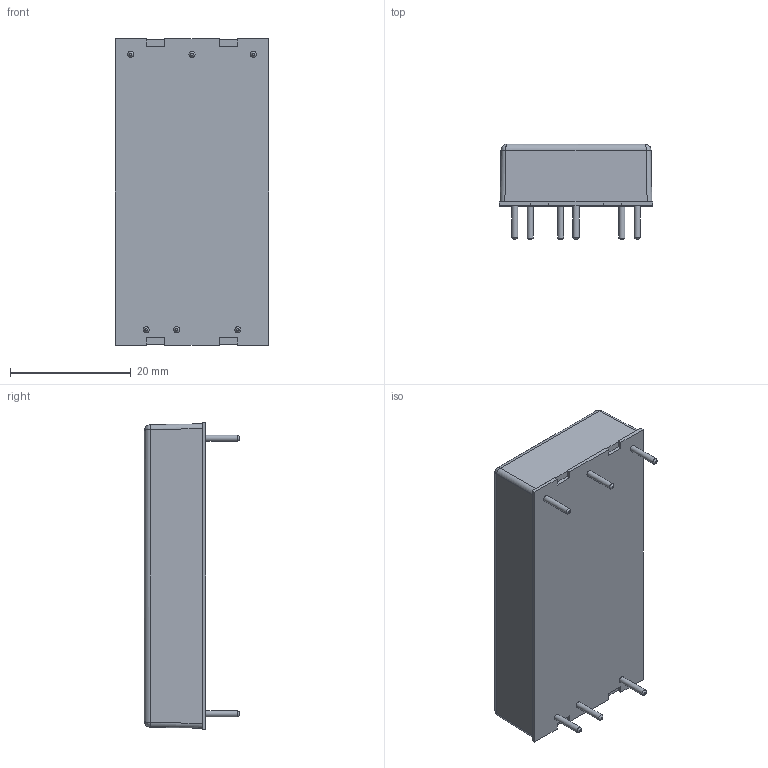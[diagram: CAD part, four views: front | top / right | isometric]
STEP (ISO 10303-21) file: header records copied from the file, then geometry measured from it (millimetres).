
FILE_DESCRIPTION (( 'STEP AP214' ), '1' );
FILE_NAME ('TEN 40E.STEP', '2020-04-14T08:10:53', ( 'user' ), ( '' ), 'SwSTEP 2.0', 'SolidWorks 2016', '' );
FILE_SCHEMA (( 'AUTOMOTIVE_DESIGN' ));
Length unit declared in the file: millimetre
Products named in the file (2): TEN 40E
Bounding box: 25.4 x 15.8 x 50.8 mm (x, y, z)
Volume: 12851.1 mm3; surface area: 4122.8 mm2
Topology: 1 solids, 1 shells, 64 faces, 146 edges, 86 vertices
Faces by surface type: plane 40, cylinder 14, cone 6, bspline 4
Full cylindrical faces by diameter (mm): 1 x6
Entity records: 2549 total; most frequent: CARTESIAN_POINT 594, DIRECTION 264, ORIENTED_EDGE 260, EDGE_CURVE 130, LINE 96, VECTOR 96, VERTEX_POINT 86, AXIS2_PLACEMENT_3D 84
